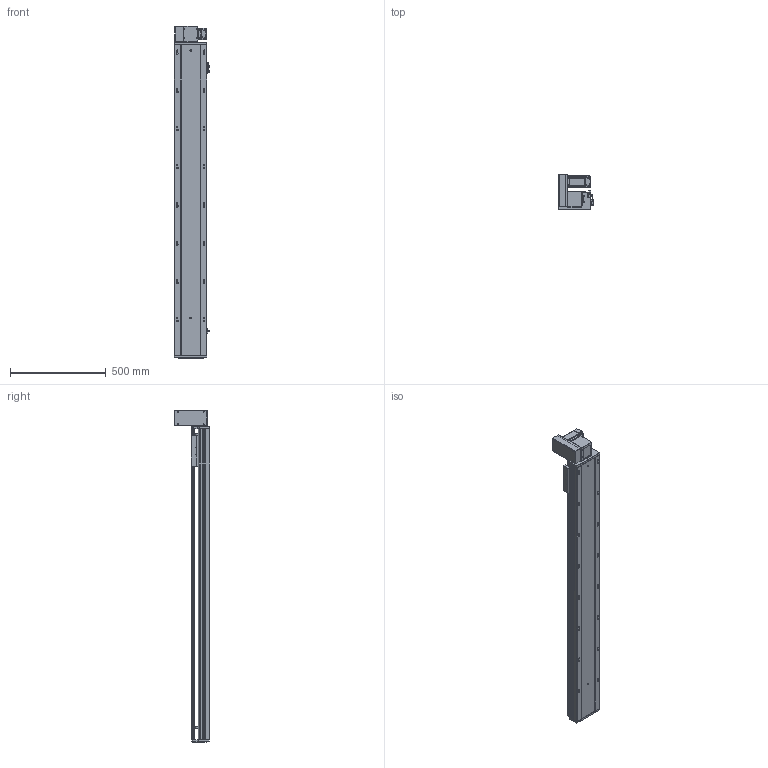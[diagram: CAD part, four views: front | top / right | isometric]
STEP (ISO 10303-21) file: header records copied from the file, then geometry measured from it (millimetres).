
FILE_DESCRIPTION (( 'STEP AP203' ), '1' );
FILE_NAME ('RY170-T-300-UL-P400W.SLDASM_1350.step', '2021-03-02T02:13:22', ( '盈信电脑' ), ( '东莞市道滘镇水果街19号' ), 'SwSTEP 2.0', 'SolidWorks 2012', '' );
FILE_SCHEMA (( 'CONFIG_CONTROL_DESIGN' ));
Products named in the file (18): RY170-T-300-UL-P400W.SLDASM_1350; RY170-T蹟翐M4; RY170肮祭謫萇儂欶; RY170同步轮电机安装板(400W); 15; RY170-T肮祭謫裔啣; 滅袉蝶18-10; RY120-T主同步轮轴承压盖; RY170-T肮祭湍揤踡輸2; RY170-T肮祭湍揤踡輸1; RY170翋肮祭謫釱; RY170肮祭謫ヶ裔啣; 覜茼ん672; RY170綴裔啣; RY170-T-300肮祭謫倰第裔啣-DL_1350; RY170外置感应片(200共用）; RY170-T-300肮祭謫倰第菁釱-DL_1350; RY170肮祭湍臏賑輸
Assembly tree (20 placements, depth 2):
  RY170-T-300-UL-P400W.SLDASM_1350
    RY170-T-300肮祭謫倰第菁釱-DL_1350
    RY170肮祭湍臏賑輸
    RY170-T-300肮祭謫倰第裔啣-DL_1350
    RY170綴裔啣
    覜茼ん672  x3
    RY170外置感应片(200共用）
    RY170肮祭謫ヶ裔啣
    RY170翋肮祭謫釱
    RY170-T肮祭湍揤踡輸1
    RY170-T肮祭湍揤踡輸2
    RY170-T肮祭謫裔啣
    滅袉蝶18-10  x2
    RY120-T主同步轮轴承压盖
    RY170肮祭謫萇儂欶
    RY170同步轮电机安装板(400W)
    RY170-T蹟翐M4
    15
Bounding box: 183.7 x 184 x 1738 mm (x, y, z)
Volume: 8343470.6 mm3; surface area: 2838400.9 mm2
Topology: 20 solids, 20 shells, 2641 faces, 7354 edges, 4691 vertices
Faces by surface type: cylinder 1200, plane 1147, cone 264, bspline 30
Entity records: 83928 total; most frequent: CARTESIAN_POINT 18687, ORIENTED_EDGE 13296, DIRECTION 13116, EDGE_CURVE 6648, AXIS2_PLACEMENT_3D 4622, VERTEX_POINT 4359, VECTOR 3872, LINE 3872
